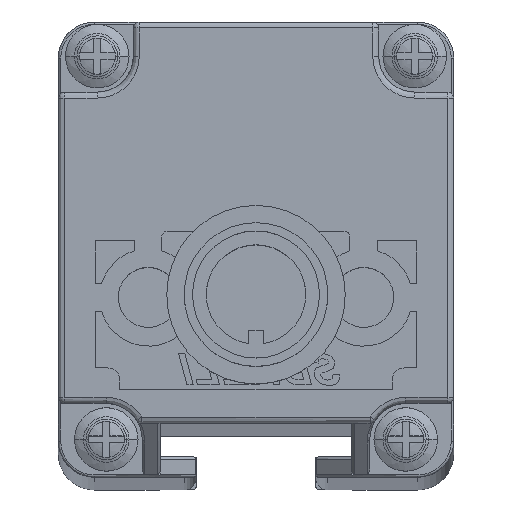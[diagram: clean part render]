
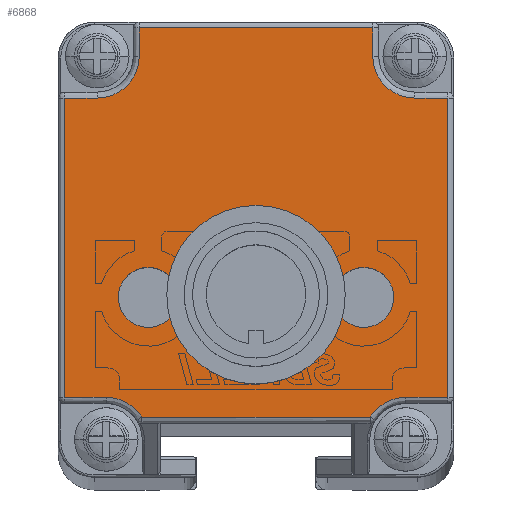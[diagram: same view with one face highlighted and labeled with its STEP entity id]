
A CAD part, top view. The second image highlights one B-rep face of the part: STEP entity #6868.
In plain terms, the highlighted planar face has unit normal (0, 0, 1).
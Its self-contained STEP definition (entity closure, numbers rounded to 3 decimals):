
#2781=CARTESIAN_POINT('',(0.65,-8.054,
485.276));
#2782=DIRECTION('',(0.,0.,1.));
#2783=DIRECTION('',(1.,0.,0.));
#2784=AXIS2_PLACEMENT_3D('',#2781,#2782,#2783);
#2786=CARTESIAN_POINT('',(0.65,-8.054,
485.276));
#2787=DIRECTION('',(0.,0.,1.));
#2788=DIRECTION('',(-1.,0.,0.));
#2789=AXIS2_PLACEMENT_3D('',#2786,#2787,#2788);
#2791=CARTESIAN_POINT('',(9.65,-8.055,485.276));
#2792=DIRECTION('',(0.,0.,1.));
#2793=DIRECTION('',(1.,-0.007,0.));
#2794=AXIS2_PLACEMENT_3D('',#2791,#2792,#2793);
#2796=CARTESIAN_POINT('',(9.65,-8.055,485.276));
#2797=DIRECTION('',(0.,0.,1.));
#2798=DIRECTION('',(-1.,0.007,0.));
#2799=AXIS2_PLACEMENT_3D('',#2796,#2797,#2798);
#2801=CARTESIAN_POINT('',(-8.35,-8.054,
485.276));
#2802=DIRECTION('',(0.,0.,1.));
#2803=DIRECTION('',(1.,0.007,0.));
#2804=AXIS2_PLACEMENT_3D('',#2801,#2802,#2803);
#2806=CARTESIAN_POINT('',(-8.35,-8.054,
485.276));
#2807=DIRECTION('',(0.,0.,1.));
#2808=DIRECTION('',(-1.,-0.007,0.));
#2809=AXIS2_PLACEMENT_3D('',#2806,#2807,#2808);
#2811=CARTESIAN_POINT('',(-11.85,-19.904,
485.276));
#2812=DIRECTION('',(0.,0.,1.));
#2813=DIRECTION('',(0.849,0.528,0.));
#2814=AXIS2_PLACEMENT_3D('',#2811,#2812,#2813);
#2816=CARTESIAN_POINT('',(-12.6,12.094,485.276));
#2817=DIRECTION('',(0.,0.,1.));
#2818=DIRECTION('',(0.,-1.,0.));
#2819=AXIS2_PLACEMENT_3D('',#2816,#2817,#2818);
#2821=CARTESIAN_POINT('',(13.9,12.094,485.276));
#2822=DIRECTION('',(0.,0.,1.));
#2823=DIRECTION('',(-1.,0.,0.));
#2824=AXIS2_PLACEMENT_3D('',#2821,#2822,#2823);
#2826=CARTESIAN_POINT('',(13.15,-19.904,485.276));
#2827=DIRECTION('',(0.,0.,1.));
#2828=DIRECTION('',(0.,1.,0.));
#2829=AXIS2_PLACEMENT_3D('',#2826,#2827,#2828);
#4545=DIRECTION('',(1.,0.,0.));
#4546=VECTOR('',#4545,19.056);
#4547=CARTESIAN_POINT('',(-8.878,-18.056,
485.276));
#4548=LINE('',#4547,#4546);
#4926=DIRECTION('',(0.,1.,0.));
#4927=VECTOR('',#4926,24.998);
#4928=CARTESIAN_POINT('',(16.65,-16.404,485.276));
#4929=LINE('',#4928,#4927);
#4949=DIRECTION('',(1.,0.,0.));
#4950=VECTOR('',#4949,3.5);
#4951=CARTESIAN_POINT('',(13.15,-16.404,485.276));
#4952=LINE('',#4951,#4950);
#4973=DIRECTION('',(-1.,0.,0.));
#4974=VECTOR('',#4973,2.75);
#4975=CARTESIAN_POINT('',(16.65,8.594,485.276));
#4976=LINE('',#4975,#4974);
#5000=DIRECTION('',(0.,1.,0.));
#5001=VECTOR('',#5000,2.35);
#5002=CARTESIAN_POINT('',(10.4,12.094,485.276));
#5003=LINE('',#5002,#5001);
#5211=DIRECTION('',(-1.,0.,0.));
#5212=VECTOR('',#5211,19.5);
#5213=CARTESIAN_POINT('',(10.4,14.444,485.276));
#5214=LINE('',#5213,#5212);
#5250=DIRECTION('',(0.,-1.,0.));
#5251=VECTOR('',#5250,2.35);
#5252=CARTESIAN_POINT('',(-9.1,14.444,485.276));
#5253=LINE('',#5252,#5251);
#5277=DIRECTION('',(-1.,0.,0.));
#5278=VECTOR('',#5277,2.75);
#5279=CARTESIAN_POINT('',(-12.6,8.594,485.276));
#5280=LINE('',#5279,#5278);
#5448=DIRECTION('',(0.,-1.,0.));
#5449=VECTOR('',#5448,24.998);
#5450=CARTESIAN_POINT('',(-15.35,8.594,485.276));
#5451=LINE('',#5450,#5449);
#5487=DIRECTION('',(1.,0.,0.));
#5488=VECTOR('',#5487,3.5);
#5489=CARTESIAN_POINT('',(-15.35,-16.404,
485.276));
#5490=LINE('',#5489,#5488);
#5951=CARTESIAN_POINT('',(12.15,-8.072,485.276));
#5952=VERTEX_POINT('',#5951);
#5953=CARTESIAN_POINT('',(7.15,-8.039,485.276));
#5954=VERTEX_POINT('',#5953);
#5955=CARTESIAN_POINT('',(-8.878,-18.056,
485.276));
#5956=CARTESIAN_POINT('',(-11.85,-16.404,
485.276));
#5957=VERTEX_POINT('',#5955);
#5958=VERTEX_POINT('',#5956);
#5959=CARTESIAN_POINT('',(-15.35,-16.404,
485.276));
#5960=VERTEX_POINT('',#5959);
#5961=CARTESIAN_POINT('',(-15.35,8.594,485.276));
#5962=VERTEX_POINT('',#5961);
#5963=CARTESIAN_POINT('',(-12.6,8.594,485.276));
#5964=VERTEX_POINT('',#5963);
#5965=CARTESIAN_POINT('',(-9.1,12.094,485.276));
#5966=VERTEX_POINT('',#5965);
#5967=CARTESIAN_POINT('',(-9.1,14.444,485.276));
#5968=VERTEX_POINT('',#5967);
#5969=CARTESIAN_POINT('',(10.4,14.444,485.276));
#5970=VERTEX_POINT('',#5969);
#5971=CARTESIAN_POINT('',(10.4,12.094,485.276));
#5972=VERTEX_POINT('',#5971);
#5973=CARTESIAN_POINT('',(13.9,8.594,485.276));
#5974=VERTEX_POINT('',#5973);
#5975=CARTESIAN_POINT('',(16.65,8.594,485.276));
#5976=VERTEX_POINT('',#5975);
#5977=CARTESIAN_POINT('',(16.65,-16.404,485.276));
#5978=VERTEX_POINT('',#5977);
#5979=CARTESIAN_POINT('',(13.15,-16.404,485.276));
#5980=VERTEX_POINT('',#5979);
#5981=CARTESIAN_POINT('',(10.178,-18.056,485.276));
#5982=VERTEX_POINT('',#5981);
#5983=CARTESIAN_POINT('',(-5.85,-8.037,
485.276));
#5984=CARTESIAN_POINT('',(-10.85,-8.07,
485.276));
#5985=VERTEX_POINT('',#5983);
#5986=VERTEX_POINT('',#5984);
#5987=CARTESIAN_POINT('',(3.65,-8.054,485.276));
#5988=CARTESIAN_POINT('',(-2.35,-8.054,
485.276));
#5989=VERTEX_POINT('',#5987);
#5990=VERTEX_POINT('',#5988);
#6817=CARTESIAN_POINT('',(0.65,0.944,
485.276));
#6818=DIRECTION('',(0.,0.,1.));
#6819=DIRECTION('',(1.,0.,0.));
#6820=AXIS2_PLACEMENT_3D('',#6817,#6818,#6819);
#6821=PLANE('',#6820);
#6823=ORIENTED_EDGE('',*,*,#6822,.T.);
#6825=ORIENTED_EDGE('',*,*,#6824,.F.);
#6827=ORIENTED_EDGE('',*,*,#6826,.F.);
#6829=ORIENTED_EDGE('',*,*,#6828,.F.);
#6831=ORIENTED_EDGE('',*,*,#6830,.T.);
#6833=ORIENTED_EDGE('',*,*,#6832,.F.);
#6835=ORIENTED_EDGE('',*,*,#6834,.F.);
#6837=ORIENTED_EDGE('',*,*,#6836,.F.);
#6839=ORIENTED_EDGE('',*,*,#6838,.T.);
#6841=ORIENTED_EDGE('',*,*,#6840,.F.);
#6843=ORIENTED_EDGE('',*,*,#6842,.F.);
#6845=ORIENTED_EDGE('',*,*,#6844,.F.);
#6847=ORIENTED_EDGE('',*,*,#6846,.T.);
#6849=ORIENTED_EDGE('',*,*,#6848,.F.);
#6850=EDGE_LOOP('',(#6823,#6825,#6827,#6829,#6831,#6833,#6835,#6837,#6839,#6841,
#6843,#6845,#6847,#6849));
#6851=FACE_OUTER_BOUND('',#6850,.F.);
#6852=ORIENTED_EDGE('',*,*,#6804,.T.);
#6853=ORIENTED_EDGE('',*,*,#6765,.T.);
#6854=EDGE_LOOP('',(#6852,#6853));
#6855=FACE_BOUND('',#6854,.F.);
#6857=ORIENTED_EDGE('',*,*,#6856,.T.);
#6859=ORIENTED_EDGE('',*,*,#6858,.T.);
#6860=EDGE_LOOP('',(#6857,#6859));
#6861=FACE_BOUND('',#6860,.F.);
#6863=ORIENTED_EDGE('',*,*,#6862,.T.);
#6865=ORIENTED_EDGE('',*,*,#6864,.T.);
#6866=EDGE_LOOP('',(#6863,#6865));
#6867=FACE_BOUND('',#6866,.F.);
#2785=CIRCLE('',#2784,3.);
#2790=CIRCLE('',#2789,3.);
#2795=CIRCLE('',#2794,2.5);
#2800=CIRCLE('',#2799,2.5);
#2805=CIRCLE('',#2804,2.5);
#2810=CIRCLE('',#2809,2.5);
#2815=CIRCLE('',#2814,3.5);
#2820=CIRCLE('',#2819,3.5);
#2825=CIRCLE('',#2824,3.5);
#2830=CIRCLE('',#2829,3.5);
#6765=EDGE_CURVE('',#5954,#5952,#2800,.T.);
#6804=EDGE_CURVE('',#5952,#5954,#2795,.T.);
#6822=EDGE_CURVE('',#5957,#5958,#2815,.T.);
#6824=EDGE_CURVE('',#5960,#5958,#5490,.T.);
#6826=EDGE_CURVE('',#5962,#5960,#5451,.T.);
#6828=EDGE_CURVE('',#5964,#5962,#5280,.T.);
#6830=EDGE_CURVE('',#5964,#5966,#2820,.T.);
#6832=EDGE_CURVE('',#5968,#5966,#5253,.T.);
#6834=EDGE_CURVE('',#5970,#5968,#5214,.T.);
#6836=EDGE_CURVE('',#5972,#5970,#5003,.T.);
#6838=EDGE_CURVE('',#5972,#5974,#2825,.T.);
#6840=EDGE_CURVE('',#5976,#5974,#4976,.T.);
#6842=EDGE_CURVE('',#5978,#5976,#4929,.T.);
#6844=EDGE_CURVE('',#5980,#5978,#4952,.T.);
#6846=EDGE_CURVE('',#5980,#5982,#2830,.T.);
#6848=EDGE_CURVE('',#5957,#5982,#4548,.T.);
#6856=EDGE_CURVE('',#5985,#5986,#2805,.T.);
#6858=EDGE_CURVE('',#5986,#5985,#2810,.T.);
#6862=EDGE_CURVE('',#5989,#5990,#2785,.T.);
#6864=EDGE_CURVE('',#5990,#5989,#2790,.T.);
#6868=ADVANCED_FACE('',(#6851,#6855,#6861,#6867),#6821,.T.);
